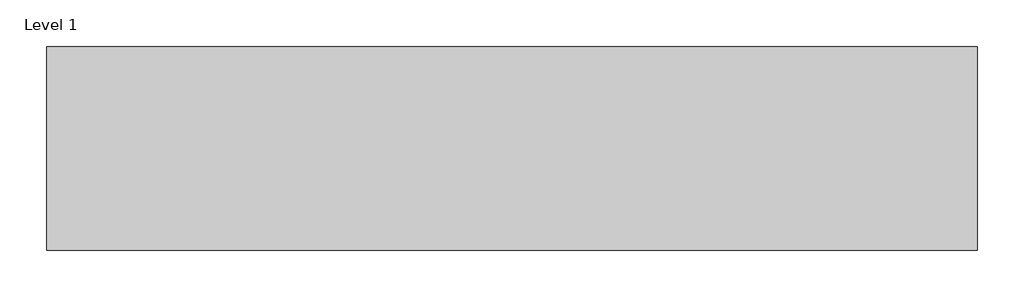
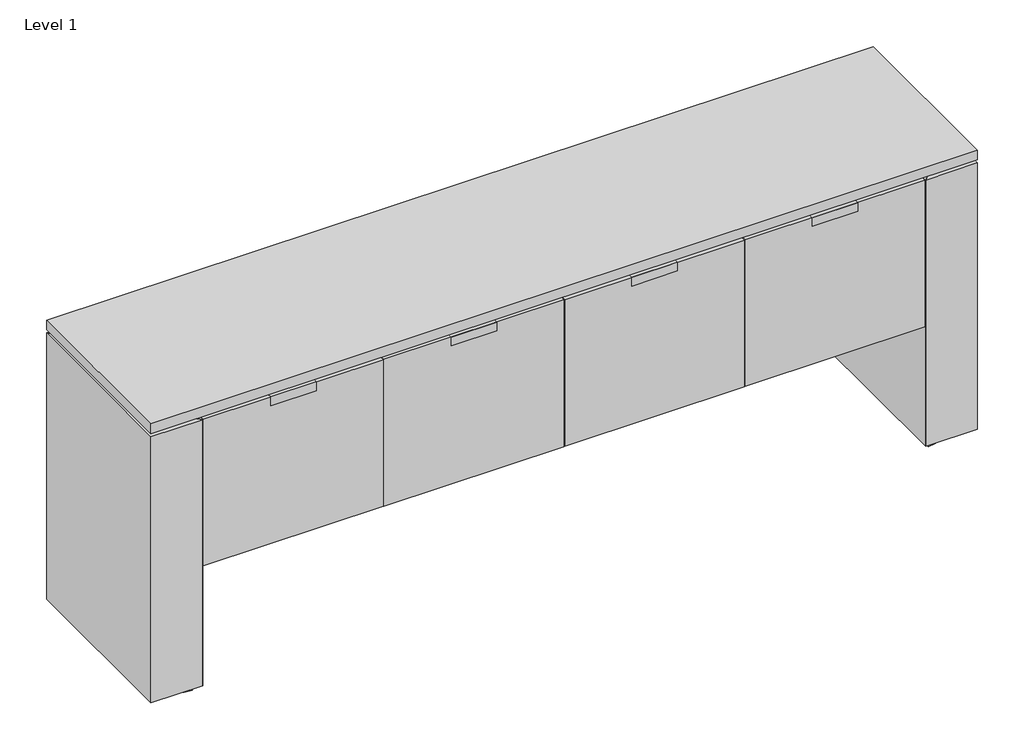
# One storey: 5 proxies.
"""IFC4 building model written with IfcOpenShell, lengths in millimetres."""

from ifc_helpers import new_model, si_unit, origin, place, context, project, spatial, transform, mapped, element, save
from components import generic_models_00d29a90, pull_2518_0e440d19

model = new_model("IFC4")

# Units and contexts
model_context = context("Model", 3, world=origin())
ifc_project = project(units=[si_unit("LENGTHUNIT", "METRE", prefix="MILLI")], contexts=[model_context])

# Site, building, storey
site = spatial("IfcSite", under=ifc_project)
building = spatial("IfcBuilding", under=site)
storey = spatial("IfcBuildingStorey", under=building, Name="Level 1", Elevation=0.0)

# Proxies
placement = place(None, origin())
generic_models_shape = generic_models_00d29a90(model_context)
element("IfcBuildingElementProxy", 1, Name="BASYS^CREDENZA 4_4 DOORS ROUND LEG-PARTS SOLID", ObjectType="BASYS^CREDENZA 4_4 DOORS ROUND LEG-PARTS SOLID", at=placement, inside=storey, context=model_context, shape_type="MappedRepresentation", body=[
    mapped(generic_models_shape, transform((0.0, -533.4, 877.8875), x_axis=(1.0, 0.0, 0.0), y_axis=(0.0, 0.0, 1.0), z_axis=(0.0, -1.0, 0.0))),
])
pull_2518_shape = pull_2518_0e440d19(model_context)
element("IfcBuildingElementProxy", 2, Name="PULL 2518", ObjectType="PULL 2518", at=placement, inside=storey, context=model_context, shape_type="MappedRepresentation", body=[
    mapped(pull_2518_shape, transform((305.4004818, -521.208, 928.4710192), x_axis=(1.0, 0.0, 0.0), y_axis=(0.0, 0.0, 1.0), z_axis=(0.0, -1.0, 0.0))),
])
element("IfcBuildingElementProxy", 3, Name="PULL 2518", ObjectType="PULL 2518", at=placement, inside=storey, context=model_context, shape_type="MappedRepresentation", body=[
    mapped(pull_2518_shape, transform((1903.8145441, -521.208, 928.4710192), x_axis=(1.0, 0.0, 0.0), y_axis=(0.0, 0.0, 1.0), z_axis=(0.0, -1.0, 0.0))),
])
element("IfcBuildingElementProxy", 4, Name="PULL 2518", ObjectType="PULL 2518", at=placement, inside=storey, context=model_context, shape_type="MappedRepresentation", body=[
    mapped(pull_2518_shape, transform((1371.0098568, -521.208, 928.4710192), x_axis=(1.0, 0.0, 0.0), y_axis=(0.0, 0.0, 1.0), z_axis=(0.0, -1.0, 0.0))),
])
element("IfcBuildingElementProxy", 5, Name="PULL 2518", ObjectType="PULL 2518", at=placement, inside=storey, context=model_context, shape_type="MappedRepresentation", body=[
    mapped(pull_2518_shape, transform((838.2051691, -521.208, 928.4710192), x_axis=(1.0, 0.0, 0.0), y_axis=(0.0, 0.0, 1.0), z_axis=(0.0, -1.0, 0.0))),
])

save(model, "model.ifc")
